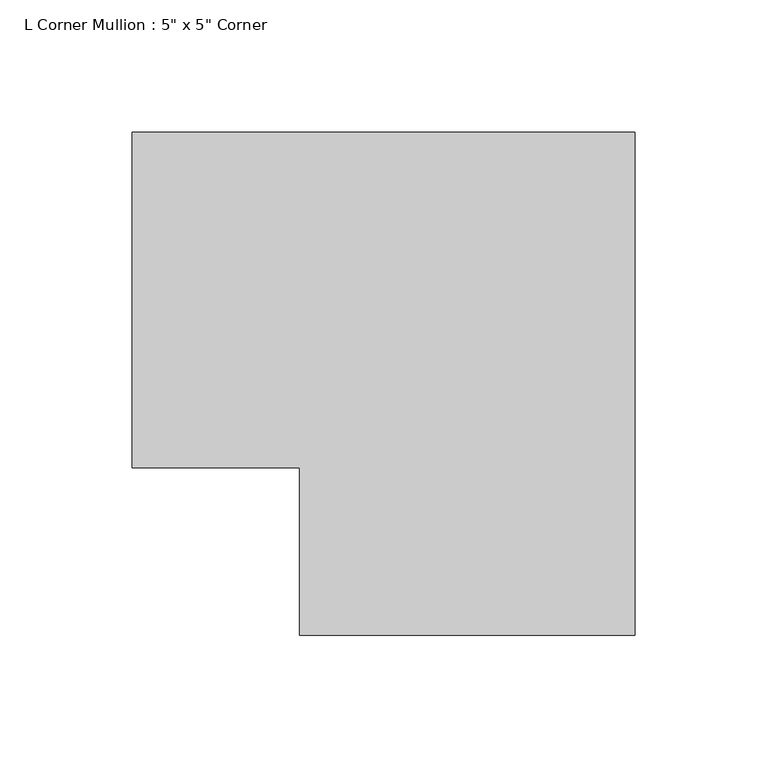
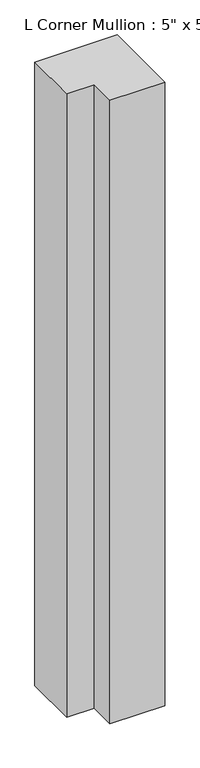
"""IFC4 building model written with IfcOpenShell, lengths in millimetres: member geometry."""

from ifc_helpers import new_model, si_unit, frame, origin, place, context, project, spatial, polyline, outline, extrude, source, transform, mapped, element, save


def member_513feaa5(model_context):
    return source(origin(), model_context, "Body", "SweptSolid", [
        extrude(outline(polyline([(-63.5, -127.0), (-63.5, -63.5), (-127.0, -63.5), (-127.0, 63.5), (63.5, 63.5), (63.5, -127.0), (-63.5, -127.0)])), frame((0.0, 0.0, -1524.0), z_axis=(0.0, 0.0, 1.0), x_axis=(1.0, 0.0, 0.0)), (0.0, 0.0, 1.0), 1524.0),
    ])


if __name__ == "__main__":
    model = new_model("IFC4")
    model_context = context("Model", 3, world=origin())
    ifc_project = project(units=[si_unit("LENGTHUNIT", "METRE", prefix="MILLI")], contexts=[model_context])
    site = spatial("IfcSite", under=ifc_project)
    building = spatial("IfcBuilding", under=site)
    placement = place(None, origin())
    member_shape = member_513feaa5(model_context)
    element("IfcMember", 1, ObjectType="L Corner Mullion : 5\" x 5\" Corner", at=placement, inside=building, context=model_context, shape_type="MappedRepresentation", body=[
        mapped(member_shape, transform((0.0, 0.0, 0.0), x_axis=(1.0, 0.0, 0.0), y_axis=(0.0, 1.0, 0.0), z_axis=(0.0, 0.0, 1.0))),
    ])
    save(model, "model.ifc")
